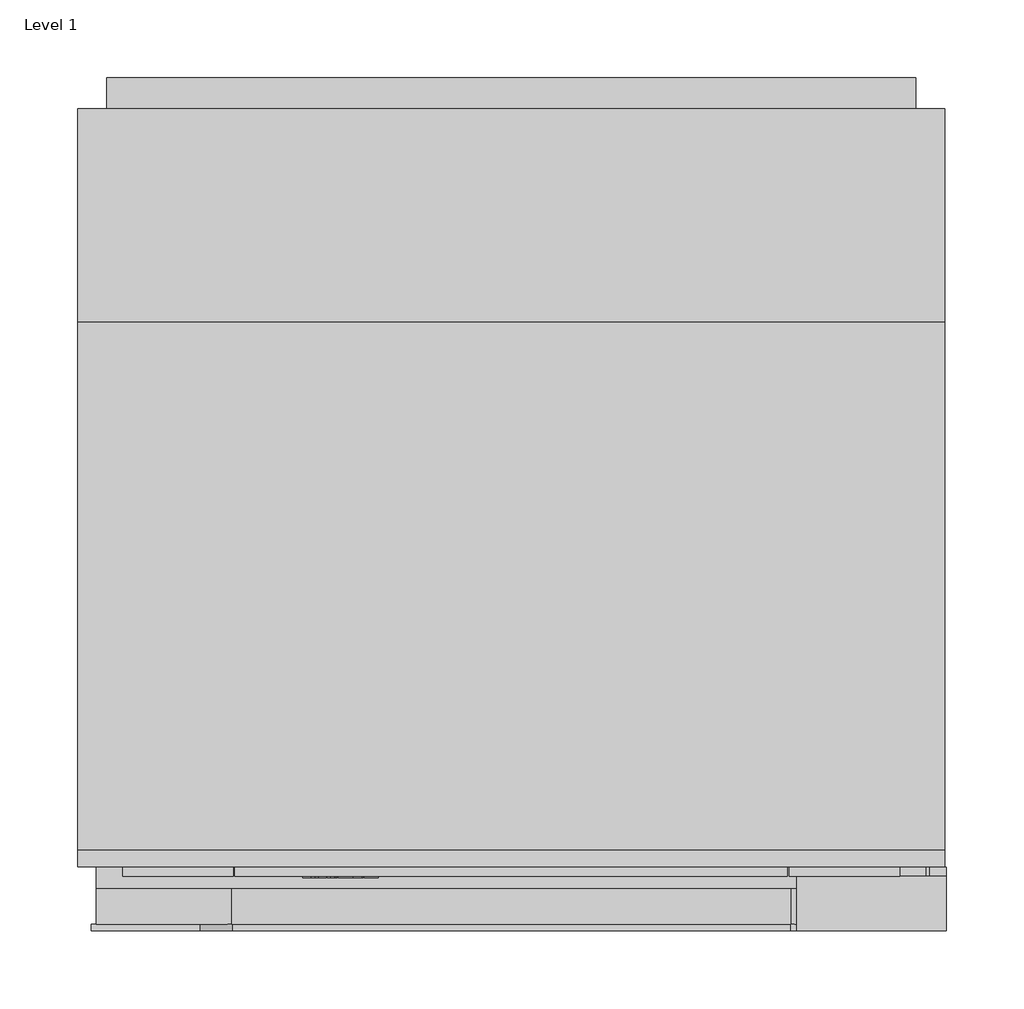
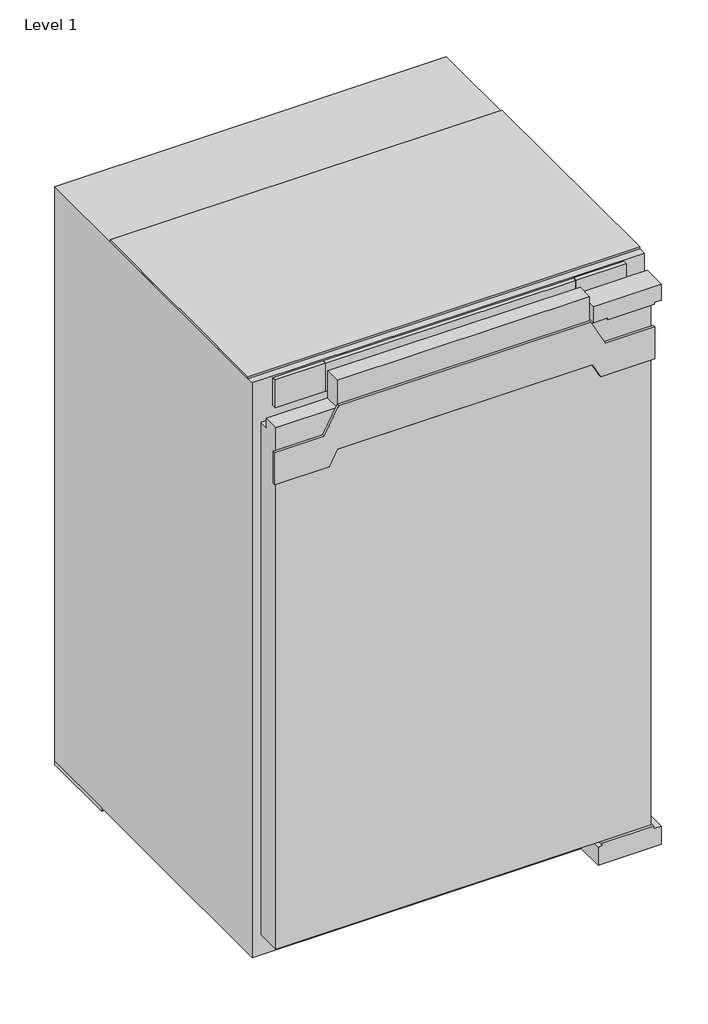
# One storey: 1 proxy.
"""IFC4 building model written with IfcOpenShell, lengths in millimetres."""

from ifc_helpers import new_model, si_unit, origin, place, context, project, spatial, transform, mapped, element, save
from components import specialty_equipment_01abc3e9

model = new_model("IFC4")

# Units and contexts
model_context = context("Model", 3, world=origin())
ifc_project = project(units=[si_unit("LENGTHUNIT", "METRE", prefix="MILLI")], contexts=[model_context])

# Site, building, storey
site = spatial("IfcSite", under=ifc_project)
building = spatial("IfcBuilding", under=site)
storey = spatial("IfcBuildingStorey", under=building, Name="Level 1", Elevation=0.0)

# Proxy
placement = place(None, origin())
specialty_equipment_shape = specialty_equipment_01abc3e9(model_context)
element("IfcBuildingElementProxy", 1, Name="11717080_OER_K7113F : 36711305_OER_11717080_K7113F", ObjectType="11717080_OER_K7113F : 36711305_OER_11717080_K7113F", at=placement, inside=storey, context=model_context, shape_type="MappedRepresentation", body=[
    mapped(specialty_equipment_shape, transform((0.0, 0.0, 0.0), x_axis=(1.0, 0.0, 0.0), y_axis=(0.0, 1.0, 0.0), z_axis=(0.0, 0.0, 1.0))),
])

save(model, "model.ifc")
